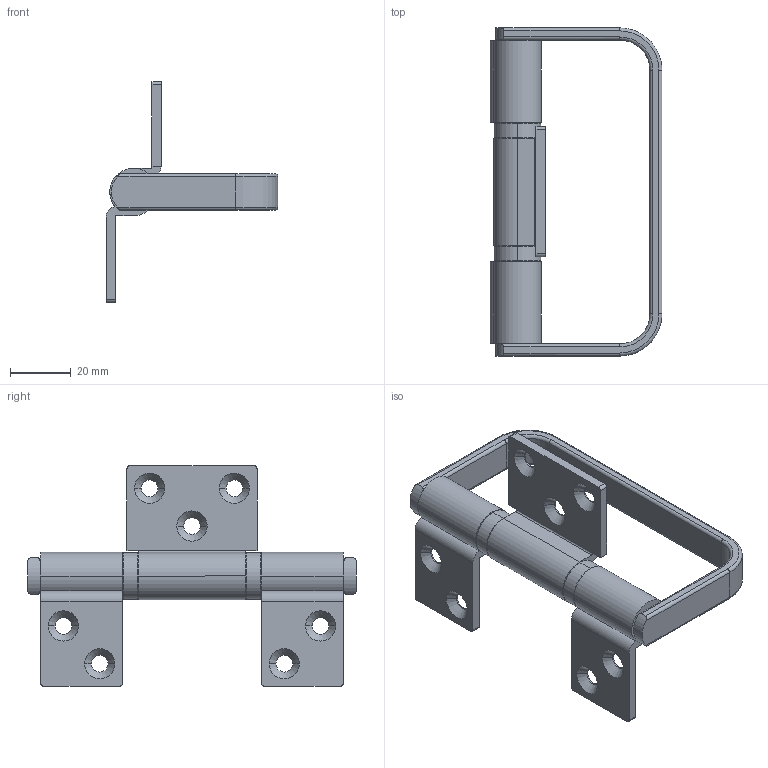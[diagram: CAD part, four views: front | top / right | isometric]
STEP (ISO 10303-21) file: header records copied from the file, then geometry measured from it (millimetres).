
FILE_DESCRIPTION (( 'STEP AP214' ), '1' );
FILE_NAME ('E3 Half Offset Hinge with Handle - Open.STEP', '2024-06-25T05:44:16', ( '' ), ( '' ), 'SwSTEP 2.0', 'SolidWorks 2023', '' );
FILE_SCHEMA (( 'AUTOMOTIVE_DESIGN' ));
Length unit declared in the file: millimetre
Products named in the file (5): E3 Half Offset Middle Flap^E3 Half Offset Hinge with Handle; E3 Half Offset Outer Flap A^E3 Half Offset Hinge with Handle; E3 Hinge Pin and handle^E3 Half Offset Hinge with Handle; E3 Half Offset Hinge with Handle - Open; E3 Half Offset Outer Flap B^E3 Half Offset Hinge with Handle
Assembly tree (4 placements, depth 2):
  E3 Half Offset Hinge with Handle - Open
    E3 Hinge Pin and handle^E3 Half Offset Hinge with Handle
    E3 Half Offset Outer Flap A^E3 Half Offset Hinge with Handle
    E3 Half Offset Outer Flap B^E3 Half Offset Hinge with Handle
    E3 Half Offset Middle Flap^E3 Half Offset Hinge with Handle
Bounding box: 56.85 x 108.5 x 73 mm (x, y, z)
Volume: 36872.2 mm3; surface area: 24096.9 mm2
Topology: 4 solids, 4 shells, 133 faces, 339 edges, 218 vertices
Faces by surface type: cylinder 69, plane 34, cone 22, torus 8
Entity records: 4329 total; most frequent: DIRECTION 785, CARTESIAN_POINT 769, ORIENTED_EDGE 678, EDGE_CURVE 339, AXIS2_PLACEMENT_3D 314, VERTEX_POINT 218, CIRCLE 174, EDGE_LOOP 159
